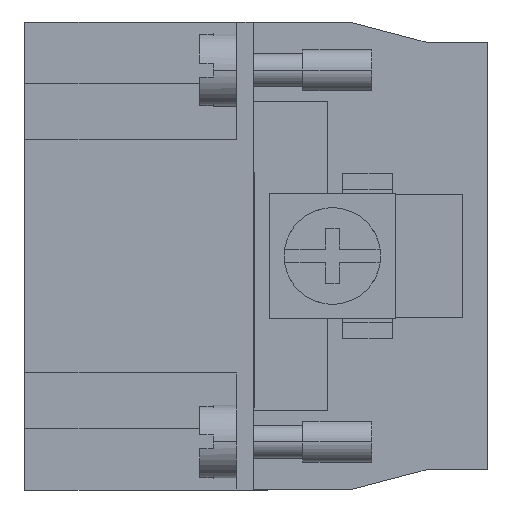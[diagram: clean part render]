
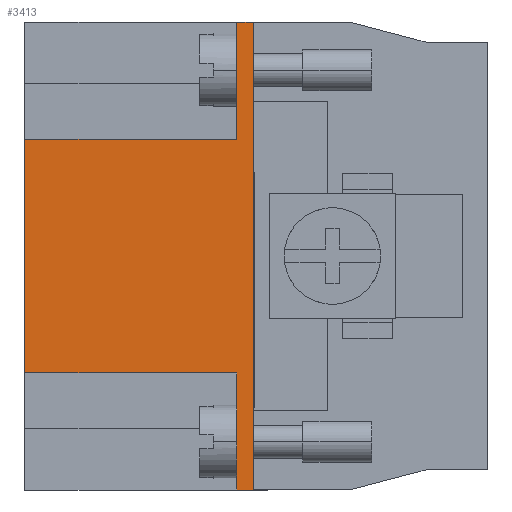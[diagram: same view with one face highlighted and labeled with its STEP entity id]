
A CAD part, left-side view. The second image highlights one B-rep face of the part: STEP entity #3413.
In plain terms, the highlighted planar face has unit normal (-1, 0, 0).
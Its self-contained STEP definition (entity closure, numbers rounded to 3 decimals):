
#626 = CARTESIAN_POINT ( 'NONE',  ( -55.5, -15.4, 17. ) ) ;
#986 = CARTESIAN_POINT ( 'NONE',  ( -55.5, 0., -8.5 ) ) ;
#1004 = EDGE_CURVE ( 'NONE', #9426, #5443, #10167, .T. ) ;
#2182 = CARTESIAN_POINT ( 'NONE',  ( -55.5, 0., -8.5 ) ) ;
#2546 = CARTESIAN_POINT ( 'NONE',  ( -55.5, -16.6, -8.5 ) ) ;
#3175 = EDGE_CURVE ( 'NONE', #3741, #9426, #13944, .T. ) ;
#3346 = EDGE_CURVE ( 'NONE', #4780, #29806, #19123, .T. ) ;
#3413 = ADVANCED_FACE ( 'NONE', ( #4051 ), #11998, .F. ) ;
#3489 = CARTESIAN_POINT ( 'NONE',  ( -55.5, -15.4, 17. ) ) ;
#3741 = VERTEX_POINT ( 'NONE', #12424 ) ;
#4051 = FACE_OUTER_BOUND ( 'NONE', #19437, .T. ) ;
#4590 = EDGE_CURVE ( 'NONE', #3741, #4780, #12251, .T. ) ;
#4749 = VECTOR ( 'NONE', #12444, 1000. ) ;
#4780 = VERTEX_POINT ( 'NONE', #18547 ) ;
#5433 = VECTOR ( 'NONE', #10885, 1000. ) ;
#5443 = VERTEX_POINT ( 'NONE', #21661 ) ;
#5444 = DIRECTION ( 'NONE',  ( 0., -1., 0. ) ) ;
#6706 = AXIS2_PLACEMENT_3D ( 'NONE', #17215, #19993, #27393 ) ;
#7396 = ORIENTED_EDGE ( 'NONE', *, *, #28577, .T. ) ;
#8404 = ORIENTED_EDGE ( 'NONE', *, *, #4590, .T. ) ;
#8473 = CARTESIAN_POINT ( 'NONE',  ( -55.5, -15.4, -8.5 ) ) ;
#8709 = LINE ( 'NONE', #626, #10307 ) ;
#9426 = VERTEX_POINT ( 'NONE', #10500 ) ;
#9895 = CARTESIAN_POINT ( 'NONE',  ( -55.5, -38.001, 8.5 ) ) ;
#10012 = ORIENTED_EDGE ( 'NONE', *, *, #1004, .F. ) ;
#10167 = LINE ( 'NONE', #18415, #16107 ) ;
#10307 = VECTOR ( 'NONE', #10754, 1000. ) ;
#10500 = CARTESIAN_POINT ( 'NONE',  ( -55.5, -15.4, 17. ) ) ;
#10754 = DIRECTION ( 'NONE',  ( 0., 0., 1. ) ) ;
#10849 = CARTESIAN_POINT ( 'NONE',  ( -55.5, -15.4, -17. ) ) ;
#10885 = DIRECTION ( 'NONE',  ( 0., 1., 0. ) ) ;
#11998 = PLANE ( 'NONE',  #6706 ) ;
#12251 = LINE ( 'NONE', #9895, #4749 ) ;
#12258 = EDGE_CURVE ( 'NONE', #16140, #5443, #12780, .T. ) ;
#12424 = CARTESIAN_POINT ( 'NONE',  ( -55.5, -15.4, 8.5 ) ) ;
#12444 = DIRECTION ( 'NONE',  ( 0., 1., 0. ) ) ;
#12778 = VECTOR ( 'NONE', #31380, 1000. ) ;
#12780 = LINE ( 'NONE', #2546, #25489 ) ;
#13944 = LINE ( 'NONE', #3489, #12778 ) ;
#14190 = EDGE_CURVE ( 'NONE', #29885, #32691, #8709, .T. ) ;
#14619 = ORIENTED_EDGE ( 'NONE', *, *, #3175, .F. ) ;
#15003 = LINE ( 'NONE', #10849, #21372 ) ;
#15616 = ORIENTED_EDGE ( 'NONE', *, *, #12258, .T. ) ;
#16107 = VECTOR ( 'NONE', #28585, 1000. ) ;
#16119 = DIRECTION ( 'NONE',  ( 0., 0., 1. ) ) ;
#16140 = VERTEX_POINT ( 'NONE', #19232 ) ;
#17215 = CARTESIAN_POINT ( 'NONE',  ( -55.5, -38.001, -8.5 ) ) ;
#18415 = CARTESIAN_POINT ( 'NONE',  ( -55.5, -15.4, 17. ) ) ;
#18547 = CARTESIAN_POINT ( 'NONE',  ( -55.5, 0., 8.5 ) ) ;
#18921 = LINE ( 'NONE', #20770, #5433 ) ;
#19123 = LINE ( 'NONE', #2182, #27447 ) ;
#19232 = CARTESIAN_POINT ( 'NONE',  ( -55.5, -16.6, -17. ) ) ;
#19437 = EDGE_LOOP ( 'NONE', ( #15616, #10012, #14619, #8404, #23304, #19679, #22408, #7396 ) ) ;
#19679 = ORIENTED_EDGE ( 'NONE', *, *, #21828, .F. ) ;
#19871 = DIRECTION ( 'NONE',  ( 0., 0., -1. ) ) ;
#19993 = DIRECTION ( 'NONE',  ( 1., 0., 0. ) ) ;
#20770 = CARTESIAN_POINT ( 'NONE',  ( -55.5, -38.001, -8.5 ) ) ;
#21372 = VECTOR ( 'NONE', #5444, 1000. ) ;
#21661 = CARTESIAN_POINT ( 'NONE',  ( -55.5, -16.6, 17. ) ) ;
#21828 = EDGE_CURVE ( 'NONE', #32691, #29806, #18921, .T. ) ;
#22408 = ORIENTED_EDGE ( 'NONE', *, *, #14190, .F. ) ;
#23304 = ORIENTED_EDGE ( 'NONE', *, *, #3346, .T. ) ;
#25489 = VECTOR ( 'NONE', #16119, 1000. ) ;
#26515 = CARTESIAN_POINT ( 'NONE',  ( -55.5, -15.4, -17. ) ) ;
#27393 = DIRECTION ( 'NONE',  ( 0., 1., 0. ) ) ;
#27447 = VECTOR ( 'NONE', #19871, 1000. ) ;
#28577 = EDGE_CURVE ( 'NONE', #29885, #16140, #15003, .T. ) ;
#28585 = DIRECTION ( 'NONE',  ( 0., -1., 0. ) ) ;
#29806 = VERTEX_POINT ( 'NONE', #986 ) ;
#29885 = VERTEX_POINT ( 'NONE', #26515 ) ;
#31380 = DIRECTION ( 'NONE',  ( 0., 0., 1. ) ) ;
#32691 = VERTEX_POINT ( 'NONE', #8473 ) ;
